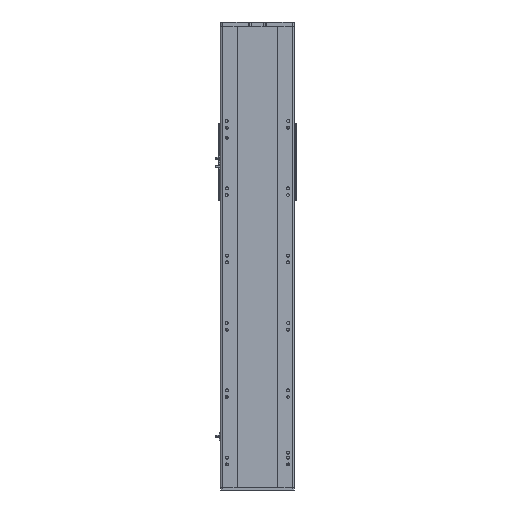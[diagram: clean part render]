
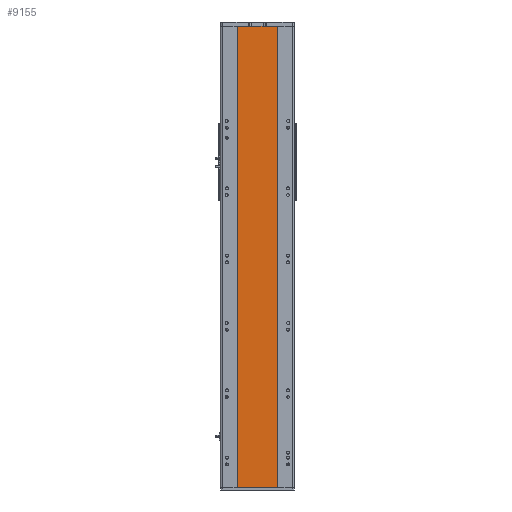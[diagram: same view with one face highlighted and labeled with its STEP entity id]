
A CAD part, front view. The second image highlights one B-rep face of the part: STEP entity #9155.
In plain terms, the highlighted planar face has unit normal (0, -1, 0).
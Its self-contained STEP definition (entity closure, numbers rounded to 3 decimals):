
#1919 = LINE ( 'NONE', #34276, #6571 ) ;
#2164 = DIRECTION ( 'NONE',  ( 1., 0., 0. ) ) ;
#2823 = LINE ( 'NONE', #10313, #25604 ) ;
#4148 = DIRECTION ( 'NONE',  ( 0., 0., -1. ) ) ;
#4221 = VERTEX_POINT ( 'NONE', #9459 ) ;
#5186 = CARTESIAN_POINT ( 'NONE',  ( 59., 1., 685.5 ) ) ;
#5199 = DIRECTION ( 'NONE',  ( -1., 0., 0. ) ) ;
#5217 = VERTEX_POINT ( 'NONE', #6082 ) ;
#5714 = DIRECTION ( 'NONE',  ( 0., 1., 0. ) ) ;
#6082 = CARTESIAN_POINT ( 'NONE',  ( -59., 1., 685.5 ) ) ;
#6571 = VECTOR ( 'NONE', #2164, 1000. ) ;
#6880 = ORIENTED_EDGE ( 'NONE', *, *, #13430, .T. ) ;
#9155 = ADVANCED_FACE ( 'NONE', ( #16832 ), #14379, .F. ) ;
#9324 = VECTOR ( 'NONE', #23501, 1000. ) ;
#9459 = CARTESIAN_POINT ( 'NONE',  ( 59., 1., 685.5 ) ) ;
#10313 = CARTESIAN_POINT ( 'NONE',  ( -59., 1., 685.5 ) ) ;
#10339 = DIRECTION ( 'NONE',  ( 1., 0., 0. ) ) ;
#13430 = EDGE_CURVE ( 'NONE', #18759, #32881, #21842, .T. ) ;
#14379 = PLANE ( 'NONE',  #19422 ) ;
#16832 = FACE_OUTER_BOUND ( 'NONE', #23360, .T. ) ;
#17833 = EDGE_CURVE ( 'NONE', #5217, #4221, #1919, .T. ) ;
#17962 = EDGE_CURVE ( 'NONE', #4221, #32881, #24254, .T. ) ;
#18759 = VERTEX_POINT ( 'NONE', #27974 ) ;
#19422 = AXIS2_PLACEMENT_3D ( 'NONE', #23148, #5714, #5199 ) ;
#20462 = EDGE_CURVE ( 'NONE', #5217, #18759, #2823, .T. ) ;
#20474 = VECTOR ( 'NONE', #10339, 1000. ) ;
#21842 = LINE ( 'NONE', #33339, #20474 ) ;
#23043 = ORIENTED_EDGE ( 'NONE', *, *, #20462, .T. ) ;
#23148 = CARTESIAN_POINT ( 'NONE',  ( -59., 1., 685.5 ) ) ;
#23360 = EDGE_LOOP ( 'NONE', ( #6880, #26321, #33876, #23043 ) ) ;
#23501 = DIRECTION ( 'NONE',  ( 0., 0., -1. ) ) ;
#24254 = LINE ( 'NONE', #5186, #9324 ) ;
#25604 = VECTOR ( 'NONE', #4148, 1000. ) ;
#26321 = ORIENTED_EDGE ( 'NONE', *, *, #17962, .F. ) ;
#27794 = CARTESIAN_POINT ( 'NONE',  ( 59., 1., -685.5 ) ) ;
#27974 = CARTESIAN_POINT ( 'NONE',  ( -59., 1., -685.5 ) ) ;
#32881 = VERTEX_POINT ( 'NONE', #27794 ) ;
#33339 = CARTESIAN_POINT ( 'NONE',  ( -59., 1., -685.5 ) ) ;
#33876 = ORIENTED_EDGE ( 'NONE', *, *, #17833, .F. ) ;
#34276 = CARTESIAN_POINT ( 'NONE',  ( -59., 1., 685.5 ) ) ;
